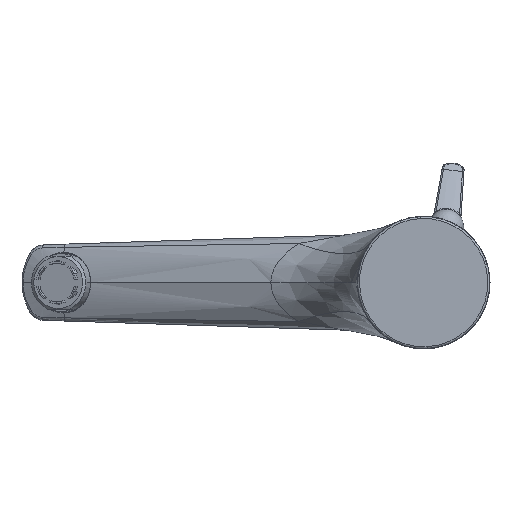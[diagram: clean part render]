
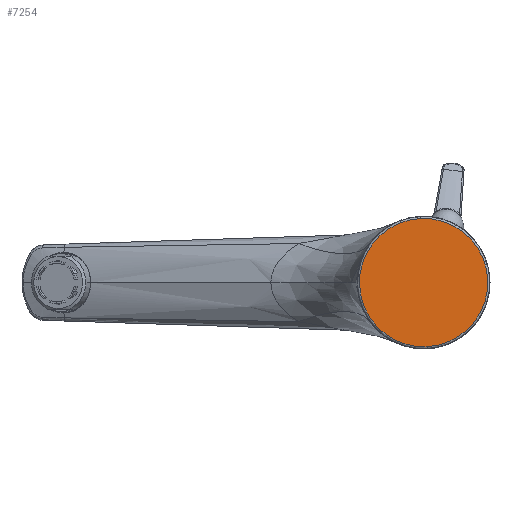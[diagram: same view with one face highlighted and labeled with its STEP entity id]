
A CAD part, front view. The second image highlights one B-rep face of the part: STEP entity #7254.
In plain terms, the highlighted planar face has unit normal (0, -1, 0).
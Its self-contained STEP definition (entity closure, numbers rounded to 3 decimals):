
#404=CARTESIAN_POINT('',(0.,0.2,0.));
#405=DIRECTION('',(0.,-1.,0.));
#406=DIRECTION('',(0.052,0.,-0.999));
#407=AXIS2_PLACEMENT_3D('',#404,#405,#406);
#409=CARTESIAN_POINT('',(0.,0.2,0.));
#410=DIRECTION('',(0.,-1.,0.));
#411=DIRECTION('',(-0.052,0.,0.999));
#412=AXIS2_PLACEMENT_3D('',#409,#410,#411);
#6360=CARTESIAN_POINT('',(1.392,0.2,
-26.561));
#6361=CARTESIAN_POINT('',(-1.392,0.2,
26.561));
#6362=VERTEX_POINT('',#6360);
#6363=VERTEX_POINT('',#6361);
#7244=CARTESIAN_POINT('',(0.,0.2,0.));
#7245=DIRECTION('',(0.,1.,0.));
#7246=DIRECTION('',(-0.052,0.,0.999));
#7247=AXIS2_PLACEMENT_3D('',#7244,#7245,#7246);
#7248=PLANE('',#7247);
#7249=ORIENTED_EDGE('',*,*,#7222,.F.);
#7251=ORIENTED_EDGE('',*,*,#7250,.F.);
#7252=EDGE_LOOP('',(#7249,#7251));
#7253=FACE_OUTER_BOUND('',#7252,.F.);
#408=CIRCLE('',#407,26.597);
#413=CIRCLE('',#412,26.597);
#7222=EDGE_CURVE('',#6362,#6363,#408,.T.);
#7250=EDGE_CURVE('',#6363,#6362,#413,.T.);
#7254=ADVANCED_FACE('',(#7253),#7248,.F.);
